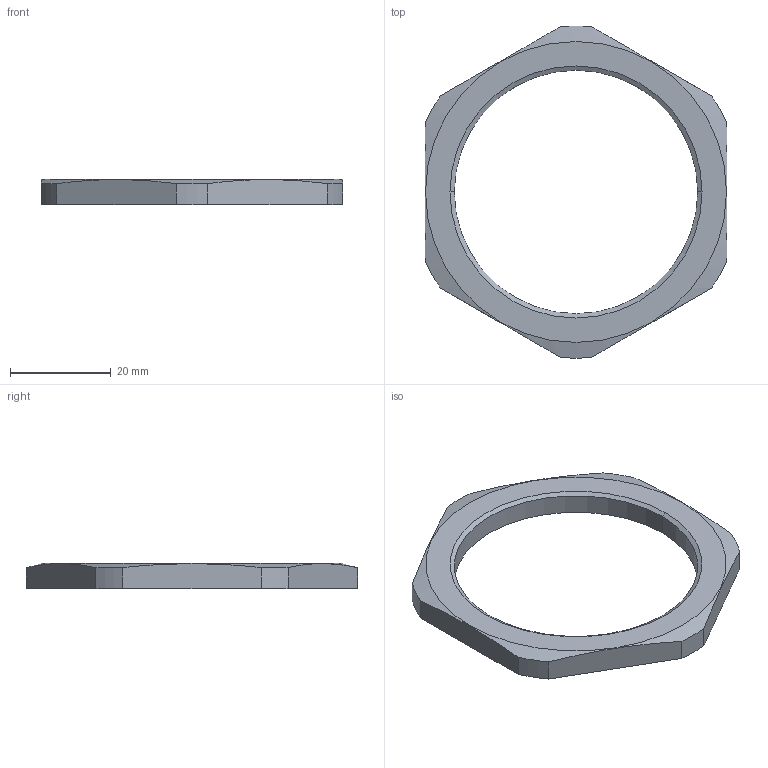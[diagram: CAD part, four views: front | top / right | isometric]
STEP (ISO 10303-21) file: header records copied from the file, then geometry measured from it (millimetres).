
FILE_DESCRIPTION (( 'STEP AP203' ), '1' );
FILE_NAME ('50.250 M.STEP', '2006-05-22T07:12:15', ( ' ' ), ( '' ), 'SwSTEP 2.0', 'SolidWorks 2005278', '' );
FILE_SCHEMA (( 'CONFIG_CONTROL_DESIGN' ));
Length unit declared in the file: millimetre
Products named in the file (1): 50.250 M
Bounding box: 60 x 65.97 x 5 mm (x, y, z)
Volume: 6095.9 mm3; surface area: 4093.9 mm2
Topology: 1 solids, 1 shells, 59 faces, 158 edges, 104 vertices
Faces by surface type: plane 45, cylinder 8, cone 6
Entity records: 1939 total; most frequent: CARTESIAN_POINT 374, ORIENTED_EDGE 316, DIRECTION 292, EDGE_CURVE 158, LINE 128, VECTOR 128, VERTEX_POINT 104, AXIS2_PLACEMENT_3D 82
